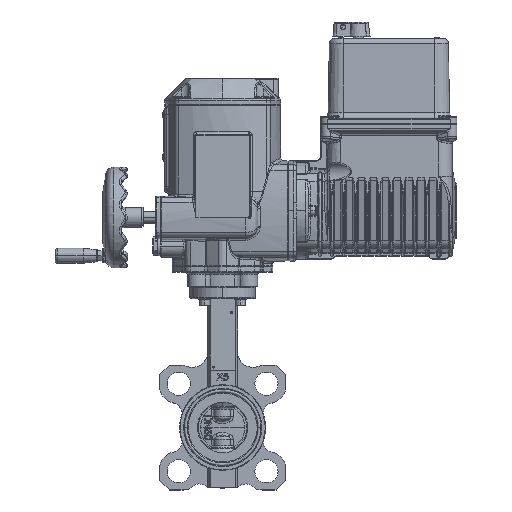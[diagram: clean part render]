
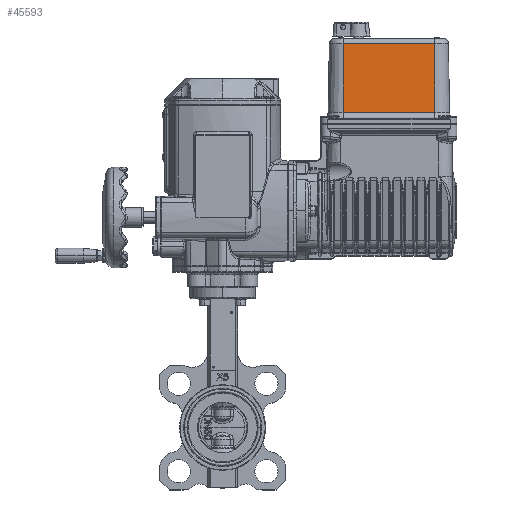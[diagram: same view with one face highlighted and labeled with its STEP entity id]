
A CAD part, top view. The second image highlights one B-rep face of the part: STEP entity #45593.
In plain terms, the highlighted planar face has unit normal (0, 0.018, 1).
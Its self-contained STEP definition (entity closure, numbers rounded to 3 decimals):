
#1634 = VERTEX_POINT ( 'NONE', #28525 ) ;
#5058 = EDGE_CURVE ( 'NONE', #1634, #38577, #47716, .T. ) ;
#6450 = CARTESIAN_POINT ( 'NONE',  ( 210.5, 301., 53. ) ) ;
#7084 = CARTESIAN_POINT ( 'NONE',  ( 119.5, 312.895, 52.792 ) ) ;
#8191 = VECTOR ( 'NONE', #82877, 1000. ) ;
#15645 = EDGE_CURVE ( 'NONE', #49166, #35656, #148657, .T. ) ;
#15738 = EDGE_CURVE ( 'NONE', #1634, #49166, #150958, .T. ) ;
#18994 = VECTOR ( 'NONE', #166449, 1000. ) ;
#28525 = CARTESIAN_POINT ( 'NONE',  ( 210.5, 381.087, 51.602 ) ) ;
#35656 = VERTEX_POINT ( 'NONE', #7084 ) ;
#38577 = VERTEX_POINT ( 'NONE', #172911 ) ;
#40533 = EDGE_CURVE ( 'NONE', #35656, #38577, #177905, .T. ) ;
#45593 = ADVANCED_FACE ( 'NONE', ( #70817 ), #66442, .T. ) ;
#47716 = LINE ( 'NONE', #152777, #85533 ) ;
#49166 = VERTEX_POINT ( 'NONE', #151167 ) ;
#66285 = DIRECTION ( 'NONE',  ( -1., 0., 0. ) ) ;
#66442 = PLANE ( 'NONE',  #73982 ) ;
#67752 = DIRECTION ( 'NONE',  ( 0., 0.017, 1. ) ) ;
#68765 = ORIENTED_EDGE ( 'NONE', *, *, #15645, .T. ) ;
#70817 = FACE_OUTER_BOUND ( 'NONE', #179666, .T. ) ;
#73982 = AXIS2_PLACEMENT_3D ( 'NONE', #6450, #67752, #187031 ) ;
#82877 = DIRECTION ( 'NONE',  ( 1., 0., 0. ) ) ;
#85533 = VECTOR ( 'NONE', #135696, 1000. ) ;
#124955 = CARTESIAN_POINT ( 'NONE',  ( 119.5, 381.087, 51.602 ) ) ;
#129843 = VECTOR ( 'NONE', #66285, 1000. ) ;
#135696 = DIRECTION ( 'NONE',  ( 0., -1., 0.017 ) ) ;
#148657 = LINE ( 'NONE', #152622, #18994 ) ;
#150958 = LINE ( 'NONE', #124955, #129843 ) ;
#151167 = CARTESIAN_POINT ( 'NONE',  ( 119.5, 381.087, 51.602 ) ) ;
#152622 = CARTESIAN_POINT ( 'NONE',  ( 119.5, 301., 53. ) ) ;
#152777 = CARTESIAN_POINT ( 'NONE',  ( 210.5, 301., 53. ) ) ;
#161167 = CARTESIAN_POINT ( 'NONE',  ( 210.5, 312.895, 52.792 ) ) ;
#166117 = ORIENTED_EDGE ( 'NONE', *, *, #15738, .T. ) ;
#166449 = DIRECTION ( 'NONE',  ( 0., -1., 0.017 ) ) ;
#172911 = CARTESIAN_POINT ( 'NONE',  ( 210.5, 312.895, 52.792 ) ) ;
#173729 = ORIENTED_EDGE ( 'NONE', *, *, #40533, .T. ) ;
#175630 = ORIENTED_EDGE ( 'NONE', *, *, #5058, .F. ) ;
#177905 = LINE ( 'NONE', #161167, #8191 ) ;
#179666 = EDGE_LOOP ( 'NONE', ( #175630, #166117, #68765, #173729 ) ) ;
#187031 = DIRECTION ( 'NONE',  ( 0., -1., 0.017 ) ) ;
